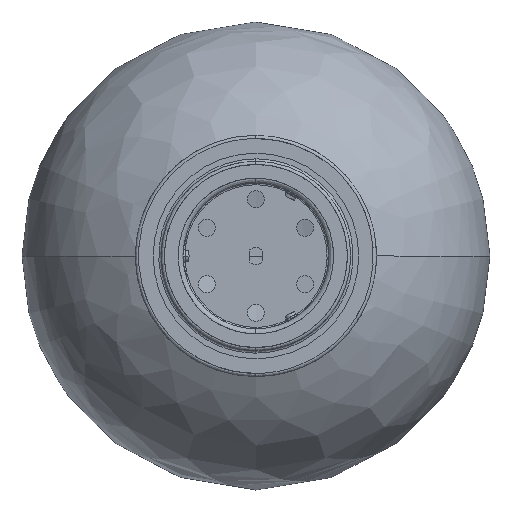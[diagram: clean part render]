
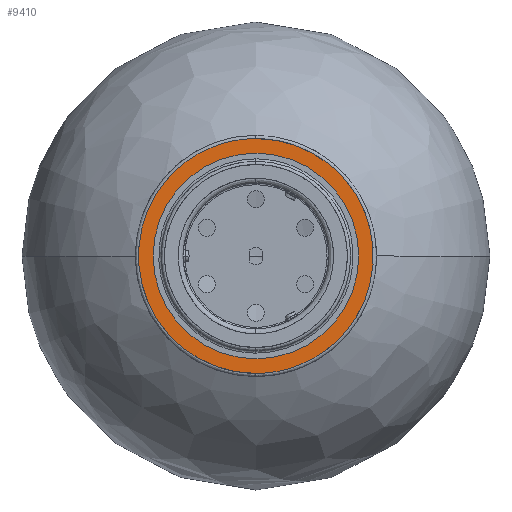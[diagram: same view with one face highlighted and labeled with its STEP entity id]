
A CAD part, front view. The second image highlights one B-rep face of the part: STEP entity #9410.
In plain terms, the highlighted planar face has unit normal (0, -1, 0).
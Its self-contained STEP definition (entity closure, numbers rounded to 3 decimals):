
#477 = DIRECTION ( 'NONE',  ( 0., 0., -1. ) ) ;
#654 = DIRECTION ( 'NONE',  ( 0., 1., 0. ) ) ;
#713 = EDGE_CURVE ( 'NONE', #5385, #1600, #8346, .T. ) ;
#826 = CARTESIAN_POINT ( 'NONE',  ( 0., -14., 0. ) ) ;
#875 = CARTESIAN_POINT ( 'NONE',  ( 0., -14., -72.5 ) ) ;
#1600 = VERTEX_POINT ( 'NONE', #6825 ) ;
#2596 = CARTESIAN_POINT ( 'NONE',  ( 0., -14., 0. ) ) ;
#2619 = AXIS2_PLACEMENT_3D ( 'NONE', #826, #654, #3739 ) ;
#3301 = ORIENTED_EDGE ( 'NONE', *, *, #9907, .T. ) ;
#3514 = DIRECTION ( 'NONE',  ( -1., 0., 0. ) ) ;
#3657 = CARTESIAN_POINT ( 'NONE',  ( 0., -14., -72.5 ) ) ;
#3739 = DIRECTION ( 'NONE',  ( -1., 0., 0. ) ) ;
#4156 = CARTESIAN_POINT ( 'NONE',  ( 0., -14., -72.5 ) ) ;
#4424 = FACE_BOUND ( 'NONE', #9724, .T. ) ;
#4948 = CARTESIAN_POINT ( 'NONE',  ( 0., -14., 72.5 ) ) ;
#5224 = ORIENTED_EDGE ( 'NONE', *, *, #6879, .F. ) ;
#5263 = VERTEX_POINT ( 'NONE', #3657 ) ;
#5385 = VERTEX_POINT ( 'NONE', #10951 ) ;
#5482 = VERTEX_POINT ( 'NONE', #10906 ) ;
#5500 = CARTESIAN_POINT ( 'NONE',  ( 0., -14., 72.5 ) ) ;
#5897 = DIRECTION ( 'NONE',  ( 0., -1., 0. ) ) ;
#6510 =( BOUNDED_CURVE ( )  B_SPLINE_CURVE ( 3, ( #875, #11751, #10926, #5500 ),
 .UNSPECIFIED., .F., .T. ) 
 B_SPLINE_CURVE_WITH_KNOTS ( ( 4, 4 ),
 ( 0., 1. ),
 .UNSPECIFIED. ) 
 CURVE ( )  GEOMETRIC_REPRESENTATION_ITEM ( )  RATIONAL_B_SPLINE_CURVE ( ( 1., 0.333, 0.333, 1. ) ) 
 REPRESENTATION_ITEM ( '' )  );
#6825 = CARTESIAN_POINT ( 'NONE',  ( -63.5, -14., 0. ) ) ;
#6879 = EDGE_CURVE ( 'NONE', #5482, #5263, #7947, .T. ) ;
#7859 = ORIENTED_EDGE ( 'NONE', *, *, #713, .T. ) ;
#7947 =( BOUNDED_CURVE ( )  B_SPLINE_CURVE ( 3, ( #4948, #11364, #9593, #4156 ),
 .UNSPECIFIED., .F., .F. ) 
 B_SPLINE_CURVE_WITH_KNOTS ( ( 4, 4 ),
 ( 0., 1. ),
 .UNSPECIFIED. ) 
 CURVE ( )  GEOMETRIC_REPRESENTATION_ITEM ( )  RATIONAL_B_SPLINE_CURVE ( ( 1., 0.333, 0.333, 1. ) ) 
 REPRESENTATION_ITEM ( '' )  );
#8205 = CIRCLE ( 'NONE', #9502, 63.5 ) ;
#8346 = CIRCLE ( 'NONE', #2619, 63.5 ) ;
#8949 = DIRECTION ( 'NONE',  ( 0., 1., 0. ) ) ;
#9410 = ADVANCED_FACE ( 'NONE', ( #4424, #11381 ), #9514, .T. ) ;
#9436 = CARTESIAN_POINT ( 'NONE',  ( 72.5, -14., 0. ) ) ;
#9466 = ORIENTED_EDGE ( 'NONE', *, *, #11500, .F. ) ;
#9502 = AXIS2_PLACEMENT_3D ( 'NONE', #2596, #8949, #3514 ) ;
#9514 = PLANE ( 'NONE',  #10326 ) ;
#9593 = CARTESIAN_POINT ( 'NONE',  ( 145., -14., -72.5 ) ) ;
#9724 = EDGE_LOOP ( 'NONE', ( #3301, #7859 ) ) ;
#9907 = EDGE_CURVE ( 'NONE', #1600, #5385, #8205, .T. ) ;
#10326 = AXIS2_PLACEMENT_3D ( 'NONE', #9436, #5897, #477 ) ;
#10470 = EDGE_LOOP ( 'NONE', ( #5224, #9466 ) ) ;
#10906 = CARTESIAN_POINT ( 'NONE',  ( 0., -14., 72.5 ) ) ;
#10926 = CARTESIAN_POINT ( 'NONE',  ( -145., -14., 72.5 ) ) ;
#10951 = CARTESIAN_POINT ( 'NONE',  ( 63.5, -14., 0. ) ) ;
#11364 = CARTESIAN_POINT ( 'NONE',  ( 145., -14., 72.5 ) ) ;
#11381 = FACE_OUTER_BOUND ( 'NONE', #10470, .T. ) ;
#11500 = EDGE_CURVE ( 'NONE', #5263, #5482, #6510, .T. ) ;
#11751 = CARTESIAN_POINT ( 'NONE',  ( -145., -14., -72.5 ) ) ;
